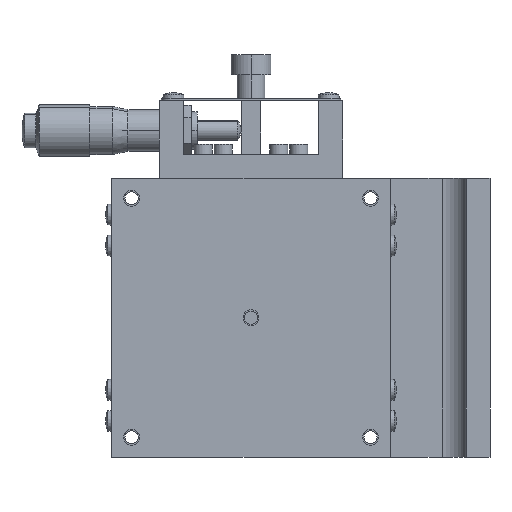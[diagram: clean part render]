
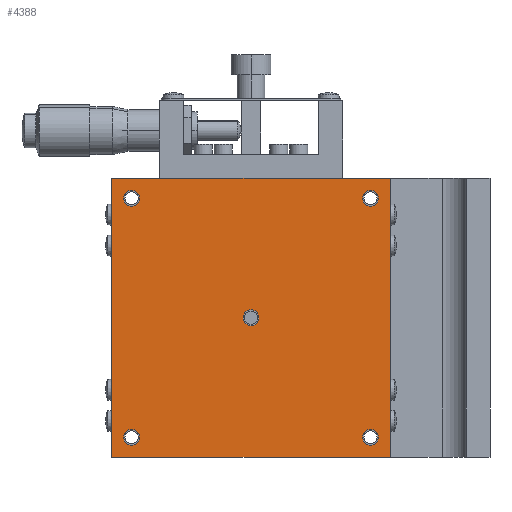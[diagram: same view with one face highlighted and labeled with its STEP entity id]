
A CAD part, left-side view. The second image highlights one B-rep face of the part: STEP entity #4388.
In plain terms, the highlighted planar face has unit normal (-1, 0, 0).
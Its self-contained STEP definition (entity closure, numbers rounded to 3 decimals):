
#1129 = CARTESIAN_POINT ( 'NONE',  ( -35., 90., -28. ) ) ;
#1130 = CARTESIAN_POINT ( 'NONE',  ( -35., 90., -32. ) ) ;
#1220 = CARTESIAN_POINT ( 'NONE',  ( -35., 60., 2. ) ) ;
#1221 = DIRECTION ( 'NONE',  ( 0., 0., 1. ) ) ;
#1222 = DIRECTION ( 'NONE',  ( -1., 0., 0. ) ) ;
#1223 = CARTESIAN_POINT ( 'NONE',  ( -35., 60., 0. ) ) ;
#1224 = AXIS2_PLACEMENT_3D ( 'NONE', #1223, #1222, #1221 ) ;
#1225 = CIRCLE ( 'NONE', #1224, 2. ) ;
#1278 = CARTESIAN_POINT ( 'NONE',  ( -35., 60., -2. ) ) ;
#1448 = CARTESIAN_POINT ( 'NONE',  ( -35., 30., 32. ) ) ;
#1449 = DIRECTION ( 'NONE',  ( 0., 0., 1. ) ) ;
#1450 = DIRECTION ( 'NONE',  ( -1., 0., 0. ) ) ;
#1451 = CARTESIAN_POINT ( 'NONE',  ( -35., 30., 30. ) ) ;
#1452 = AXIS2_PLACEMENT_3D ( 'NONE', #1451, #1450, #1449 ) ;
#1453 = CIRCLE ( 'NONE', #1452, 2. ) ;
#1454 = CARTESIAN_POINT ( 'NONE',  ( -35., 30., 28. ) ) ;
#1514 = CARTESIAN_POINT ( 'NONE',  ( -35., 30., -28. ) ) ;
#1515 = DIRECTION ( 'NONE',  ( 0., 0., 1. ) ) ;
#1516 = DIRECTION ( 'NONE',  ( -1., 0., 0. ) ) ;
#1517 = CARTESIAN_POINT ( 'NONE',  ( -35., 30., -30. ) ) ;
#1518 = AXIS2_PLACEMENT_3D ( 'NONE', #1517, #1516, #1515 ) ;
#1519 = CIRCLE ( 'NONE', #1518, 2. ) ;
#1520 = CARTESIAN_POINT ( 'NONE',  ( -35., 30., -32. ) ) ;
#1571 = CARTESIAN_POINT ( 'NONE',  ( -35., 90., 32. ) ) ;
#1572 = DIRECTION ( 'NONE',  ( 0., 0., 1. ) ) ;
#1573 = DIRECTION ( 'NONE',  ( -1., 0., 0. ) ) ;
#1574 = CARTESIAN_POINT ( 'NONE',  ( -35., 90., 30. ) ) ;
#1575 = AXIS2_PLACEMENT_3D ( 'NONE', #1574, #1573, #1572 ) ;
#1576 = CIRCLE ( 'NONE', #1575, 2. ) ;
#1577 = CARTESIAN_POINT ( 'NONE',  ( -35., 90., 28. ) ) ;
#2040 = DIRECTION ( 'NONE',  ( 0., 0., 1. ) ) ;
#2041 = DIRECTION ( 'NONE',  ( -1., 0., 0. ) ) ;
#2042 = CARTESIAN_POINT ( 'NONE',  ( -35., 90., -30. ) ) ;
#2043 = AXIS2_PLACEMENT_3D ( 'NONE', #2042, #2041, #2040 ) ;
#2044 = CIRCLE ( 'NONE', #2043, 2. ) ;
#2061 = VERTEX_POINT ( 'NONE', #1278 ) ;
#2593 = EDGE_CURVE ( 'NONE', #2061, #2594, #1225, .T. ) ;
#2594 = VERTEX_POINT ( 'NONE', #1220 ) ;
#2605 = VERTEX_POINT ( 'NONE', #1130 ) ;
#2606 = VERTEX_POINT ( 'NONE', #1129 ) ;
#2632 = VERTEX_POINT ( 'NONE', #1454 ) ;
#2634 = EDGE_CURVE ( 'NONE', #2632, #2635, #1453, .T. ) ;
#2635 = VERTEX_POINT ( 'NONE', #1448 ) ;
#2666 = VERTEX_POINT ( 'NONE', #1577 ) ;
#2668 = EDGE_CURVE ( 'NONE', #2666, #2669, #1576, .T. ) ;
#2669 = VERTEX_POINT ( 'NONE', #1571 ) ;
#2690 = VERTEX_POINT ( 'NONE', #1520 ) ;
#2692 = EDGE_CURVE ( 'NONE', #2690, #2693, #1519, .T. ) ;
#2693 = VERTEX_POINT ( 'NONE', #1514 ) ;
#2949 = EDGE_CURVE ( 'NONE', #2605, #2606, #2044, .T. ) ;
#3992 = EDGE_CURVE ( 'NONE', #2606, #2605, #6567, .T. ) ;
#3998 = EDGE_CURVE ( 'NONE', #2594, #2061, #6615, .T. ) ;
#4069 = EDGE_CURVE ( 'NONE', #2669, #2666, #6429, .T. ) ;
#4080 = EDGE_CURVE ( 'NONE', #2693, #2690, #6416, .T. ) ;
#4088 = EDGE_CURVE ( 'NONE', #2635, #2632, #6506, .T. ) ;
#4283 = ORIENTED_EDGE ( 'NONE', *, *, #2593, .F. ) ;
#4284 = EDGE_LOOP ( 'NONE', ( #4285, #4286 ) ) ;
#4285 = ORIENTED_EDGE ( 'NONE', *, *, #3992, .F. ) ;
#4286 = ORIENTED_EDGE ( 'NONE', *, *, #2949, .F. ) ;
#4287 = EDGE_LOOP ( 'NONE', ( #4288, #4289 ) ) ;
#4288 = ORIENTED_EDGE ( 'NONE', *, *, #4069, .F. ) ;
#4289 = ORIENTED_EDGE ( 'NONE', *, *, #2668, .F. ) ;
#4290 = EDGE_LOOP ( 'NONE', ( #4291, #4330 ) ) ;
#4291 = ORIENTED_EDGE ( 'NONE', *, *, #4088, .F. ) ;
#4299 = ORIENTED_EDGE ( 'NONE', *, *, #4376, .T. ) ;
#4321 = VERTEX_POINT ( 'NONE', #7037 ) ;
#4330 = ORIENTED_EDGE ( 'NONE', *, *, #2634, .F. ) ;
#4331 = EDGE_LOOP ( 'NONE', ( #4332, #4333 ) ) ;
#4332 = ORIENTED_EDGE ( 'NONE', *, *, #4080, .F. ) ;
#4333 = ORIENTED_EDGE ( 'NONE', *, *, #2692, .F. ) ;
#4334 = EDGE_LOOP ( 'NONE', ( #4335, #4338, #4341, #4299 ) ) ;
#4335 = ORIENTED_EDGE ( 'NONE', *, *, #4336, .T. ) ;
#4336 = EDGE_CURVE ( 'NONE', #4374, #4337, #7057, .T. ) ;
#4337 = VERTEX_POINT ( 'NONE', #6981 ) ;
#4338 = ORIENTED_EDGE ( 'NONE', *, *, #4339, .F. ) ;
#4339 = EDGE_CURVE ( 'NONE', #4340, #4337, #6980, .T. ) ;
#4340 = VERTEX_POINT ( 'NONE', #6976 ) ;
#4341 = ORIENTED_EDGE ( 'NONE', *, *, #4342, .F. ) ;
#4342 = EDGE_CURVE ( 'NONE', #4321, #4340, #6975, .T. ) ;
#4374 = VERTEX_POINT ( 'NONE', #7013 ) ;
#4376 = EDGE_CURVE ( 'NONE', #4321, #4374, #7047, .T. ) ;
#4388 = ADVANCED_FACE ( 'NONE', ( #7087, #7086, #7085, #7084, #7083, #7082 ), #7081, .F. ) ;
#4389 = EDGE_LOOP ( 'NONE', ( #4390, #4283 ) ) ;
#4390 = ORIENTED_EDGE ( 'NONE', *, *, #3998, .F. ) ;
#6413 = DIRECTION ( 'NONE',  ( 0., 0., 1. ) ) ;
#6414 = DIRECTION ( 'NONE',  ( -1., 0., 0. ) ) ;
#6415 = AXIS2_PLACEMENT_3D ( 'NONE', #6422, #6414, #6413 ) ;
#6416 = CIRCLE ( 'NONE', #6415, 2. ) ;
#6422 = CARTESIAN_POINT ( 'NONE',  ( -35., 30., -30. ) ) ;
#6425 = DIRECTION ( 'NONE',  ( 0., 0., 1. ) ) ;
#6426 = DIRECTION ( 'NONE',  ( -1., 0., 0. ) ) ;
#6427 = CARTESIAN_POINT ( 'NONE',  ( -35., 90., 30. ) ) ;
#6428 = AXIS2_PLACEMENT_3D ( 'NONE', #6427, #6426, #6425 ) ;
#6429 = CIRCLE ( 'NONE', #6428, 2. ) ;
#6499 = DIRECTION ( 'NONE',  ( 0., 0., 1. ) ) ;
#6500 = DIRECTION ( 'NONE',  ( -1., 0., 0. ) ) ;
#6501 = CARTESIAN_POINT ( 'NONE',  ( -35., 30., 30. ) ) ;
#6502 = AXIS2_PLACEMENT_3D ( 'NONE', #6501, #6500, #6499 ) ;
#6506 = CIRCLE ( 'NONE', #6502, 2. ) ;
#6563 = DIRECTION ( 'NONE',  ( 0., 0., 1. ) ) ;
#6564 = DIRECTION ( 'NONE',  ( -1., 0., 0. ) ) ;
#6565 = CARTESIAN_POINT ( 'NONE',  ( -35., 90., -30. ) ) ;
#6566 = AXIS2_PLACEMENT_3D ( 'NONE', #6565, #6564, #6563 ) ;
#6567 = CIRCLE ( 'NONE', #6566, 2. ) ;
#6612 = DIRECTION ( 'NONE',  ( 0., 0., 1. ) ) ;
#6613 = DIRECTION ( 'NONE',  ( -1., 0., 0. ) ) ;
#6614 = AXIS2_PLACEMENT_3D ( 'NONE', #6620, #6613, #6612 ) ;
#6615 = CIRCLE ( 'NONE', #6614, 2. ) ;
#6620 = CARTESIAN_POINT ( 'NONE',  ( -35., 60., 0. ) ) ;
#6972 = DIRECTION ( 'NONE',  ( 0., 0., 1. ) ) ;
#6973 = VECTOR ( 'NONE', #6972, 1000. ) ;
#6974 = CARTESIAN_POINT ( 'NONE',  ( -35., 95., 35. ) ) ;
#6975 = LINE ( 'NONE', #6974, #6973 ) ;
#6976 = CARTESIAN_POINT ( 'NONE',  ( -35., 95., 35. ) ) ;
#6977 = DIRECTION ( 'NONE',  ( 0., -1., 0. ) ) ;
#6978 = VECTOR ( 'NONE', #6977, 1000. ) ;
#6979 = CARTESIAN_POINT ( 'NONE',  ( -35., 95., 35. ) ) ;
#6980 = LINE ( 'NONE', #6979, #6978 ) ;
#6981 = CARTESIAN_POINT ( 'NONE',  ( -35., 25., 35. ) ) ;
#7009 = DIRECTION ( 'NONE',  ( 0., 0., -1. ) ) ;
#7010 = DIRECTION ( 'NONE',  ( 1., 0., 0. ) ) ;
#7011 = CARTESIAN_POINT ( 'NONE',  ( -35., 95., 35. ) ) ;
#7012 = AXIS2_PLACEMENT_3D ( 'NONE', #7011, #7010, #7009 ) ;
#7013 = CARTESIAN_POINT ( 'NONE',  ( -35., 25., -35. ) ) ;
#7037 = CARTESIAN_POINT ( 'NONE',  ( -35., 95., -35. ) ) ;
#7044 = DIRECTION ( 'NONE',  ( 0., -1., 0. ) ) ;
#7045 = VECTOR ( 'NONE', #7044, 1000. ) ;
#7046 = CARTESIAN_POINT ( 'NONE',  ( -35., 95., -35. ) ) ;
#7047 = LINE ( 'NONE', #7046, #7045 ) ;
#7054 = DIRECTION ( 'NONE',  ( 0., 0., 1. ) ) ;
#7055 = VECTOR ( 'NONE', #7054, 1000. ) ;
#7056 = CARTESIAN_POINT ( 'NONE',  ( -35., 25., 35. ) ) ;
#7057 = LINE ( 'NONE', #7056, #7055 ) ;
#7081 = PLANE ( 'NONE',  #7012 ) ;
#7082 = FACE_OUTER_BOUND ( 'NONE', #4334, .T. ) ;
#7083 = FACE_BOUND ( 'NONE', #4331, .T. ) ;
#7084 = FACE_BOUND ( 'NONE', #4290, .T. ) ;
#7085 = FACE_BOUND ( 'NONE', #4287, .T. ) ;
#7086 = FACE_BOUND ( 'NONE', #4284, .T. ) ;
#7087 = FACE_BOUND ( 'NONE', #4389, .T. ) ;
